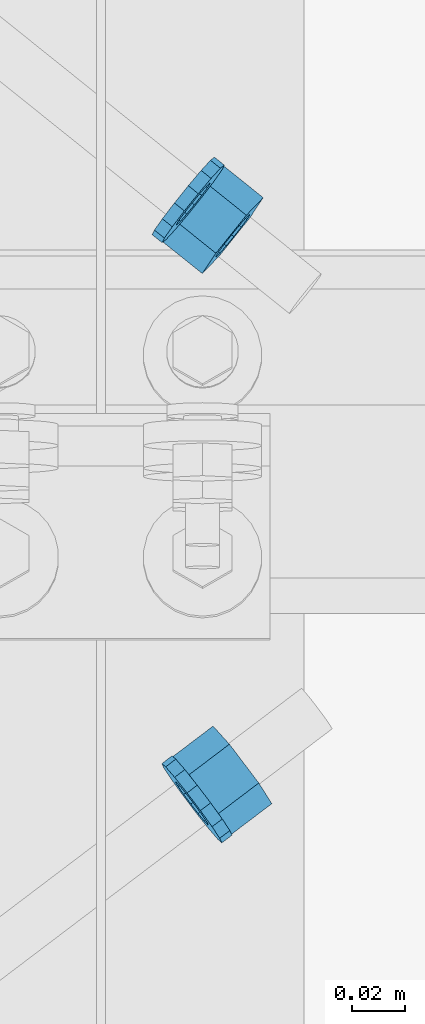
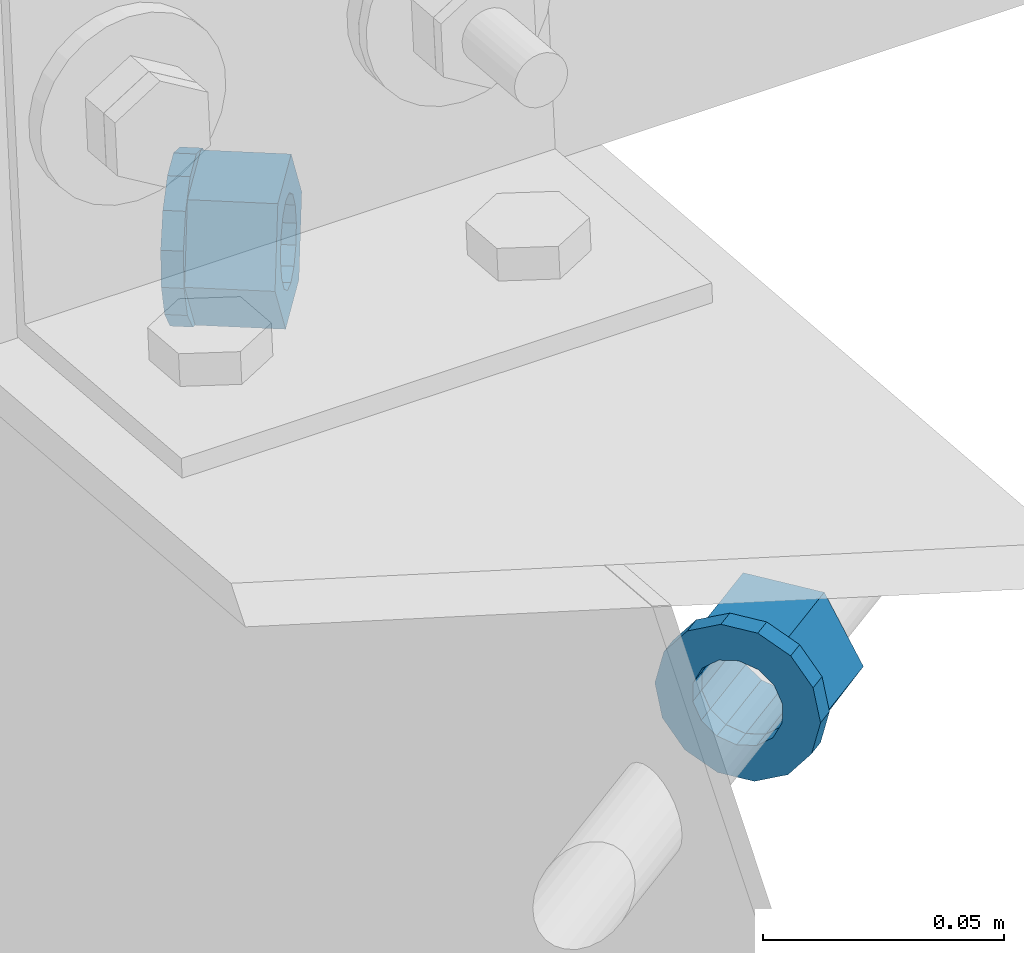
# One storey, part 47 of 185: 4 beams, 4 elements without a shape of their own.
"""IFC2X3 building model written with IfcOpenShell, lengths in millimetres."""

from ifc_helpers import new_model, si_unit, frame, origin_with_axes, place, context, subcontext, project, spatial, polyline, outline, extrude, material, type_object, element, aggregate, save


model = new_model("IFC2X3")

# Units and contexts
model_context = context("Model", 3, precision=1e-05, world=origin_with_axes())
body_context = subcontext(model_context, "Body", "Model", "MODEL_VIEW")
ifc_project = project(units=[si_unit("LENGTHUNIT", "METRE", prefix="MILLI"), si_unit("AREAUNIT", "SQUARE_METRE"), si_unit("VOLUMEUNIT", "CUBIC_METRE"), si_unit("MASSUNIT", "GRAM", prefix="KILO"), si_unit("TIMEUNIT", "SECOND"), si_unit("PLANEANGLEUNIT", "RADIAN"), si_unit("SOLIDANGLEUNIT", "STERADIAN"), si_unit("THERMODYNAMICTEMPERATUREUNIT", "DEGREE_CELSIUS"), si_unit("LUMINOUSINTENSITYUNIT", "LUMEN")], contexts=[model_context])

# Site, building, storey
site_placement = place(None, origin_with_axes())
site = spatial("IfcSite", under=ifc_project, at=site_placement, Name="Undefined", CompositionType="ELEMENT")
building_placement = place(site_placement, origin_with_axes())
building = spatial("IfcBuilding", under=site, at=building_placement, Name="Undefined", CompositionType="ELEMENT")
storey_placement = place(building_placement, origin_with_axes())
storey = spatial("IfcBuildingStorey", under=building, at=storey_placement, Name="Undefined", CompositionType="ELEMENT", Elevation=0.0)

# Assembly, beam
assembly_1_placement = place(storey_placement, origin_with_axes())
assembly_1 = element("IfcElementAssembly", 1, at=assembly_1_placement, inside=storey, Name="Steel Assembly", AssemblyPlace="NOTDEFINED", PredefinedType="RIGID_FRAME")
ifc_material = material(Name="STEEL/55")
beam_type_1 = type_object("IfcBeamType", Name="3/4_HEAVY_HEX_NUT", PredefinedType="NOTDEFINED")
beam_1_placement = place(assembly_1_placement, frame((37756.9172232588, 25273.2563148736, 6394.0371357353), z_axis=(0.0397308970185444, 0.0307693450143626, 0.998736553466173), x_axis=(0.796162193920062, 0.602993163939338, -0.0502494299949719)))
beam_1 = element("IfcBeam", 2, at=beam_1_placement, type_object=beam_type_1, material=ifc_material, Name="3/4 H HEX NUT A563", ObjectType="3/4_HEAVY_HEX_NUT", context=body_context, shape_type="SweptSolid", body=[
    extrude(outline(polyline([(9.13000011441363, -15.810000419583), (-9.13000011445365, -15.810000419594), (-18.2600002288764, 1.54614099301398e-11), (-9.13000011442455, 15.8100004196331), (9.13000011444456, 15.8100004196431), (18.2600002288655, 3.36513039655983e-11), (9.13000011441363, -15.810000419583)]), holes=[polyline([(-8.06850066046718, 6.43441456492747), (-10.061255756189, 2.29641597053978), (-10.0612557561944, -2.29641597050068), (-8.06850066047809, -6.43441456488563), (-4.47768005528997, -9.29799844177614), (-1.09139364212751e-11, -10.3199996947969), (4.47768005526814, -9.29799844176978), (8.0685006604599, -6.43441456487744), (10.0612557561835, -2.29641597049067), (10.0612557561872, 2.2964159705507), (8.06850066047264, 6.43441456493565), (4.47768005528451, 9.29799844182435), (7.27595761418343e-12, 10.319999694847), (-4.47768005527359, 9.2979984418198), (-8.06850066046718, 6.43441456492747)])]), frame((19.0500000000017, 0.0, 2.58175642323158e-19), z_axis=(-1.0, 0.0, 0.0), x_axis=(0.0, -1.0, 0.0)), (0.0, 0.0, 1.0), 19.0),
])
aggregate(assembly_1, [beam_1])

assembly_2_placement = place(storey_placement, origin_with_axes())
assembly_2 = element("IfcElementAssembly", 3, at=assembly_2_placement, inside=storey, Name="Steel Assembly", AssemblyPlace="NOTDEFINED", PredefinedType="RIGID_FRAME")
beam_2_placement = place(assembly_2_placement, frame((37753.6227770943, 25495.1940408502, 6375.542320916), z_axis=(0.0397456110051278, -0.0336837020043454, -0.998641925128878), x_axis=(0.778915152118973, -0.624963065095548, 0.0520802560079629)))
beam_2 = element("IfcBeam", 4, at=beam_2_placement, type_object=beam_type_1, material=ifc_material, Name="3/4 H HEX NUT A563", ObjectType="3/4_HEAVY_HEX_NUT", context=body_context, shape_type="SweptSolid", body=[
    extrude(outline(polyline([(9.13000011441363, -15.810000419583), (-9.13000011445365, -15.810000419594), (-18.2600002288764, 1.54614099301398e-11), (-9.13000011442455, 15.8100004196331), (9.13000011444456, 15.8100004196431), (18.2600002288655, 3.36513039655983e-11), (9.13000011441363, -15.810000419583)]), holes=[polyline([(-8.06850066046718, 6.43441456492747), (-10.061255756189, 2.29641597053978), (-10.0612557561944, -2.29641597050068), (-8.06850066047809, -6.43441456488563), (-4.47768005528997, -9.29799844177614), (-1.09139364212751e-11, -10.3199996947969), (4.47768005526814, -9.29799844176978), (8.0685006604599, -6.43441456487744), (10.0612557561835, -2.29641597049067), (10.0612557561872, 2.2964159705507), (8.06850066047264, 6.43441456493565), (4.47768005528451, 9.29799844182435), (7.27595761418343e-12, 10.319999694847), (-4.47768005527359, 9.2979984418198), (-8.06850066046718, 6.43441456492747)])]), frame((19.0500000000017, 0.0, 2.58175642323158e-19), z_axis=(-1.0, 0.0, 0.0), x_axis=(0.0, -1.0, 0.0)), (0.0, 0.0, 1.0), 19.0),
])
aggregate(assembly_2, [beam_2])

assembly_3_placement = place(storey_placement, origin_with_axes())
assembly_3 = element("IfcElementAssembly", 5, at=assembly_3_placement, inside=storey, Name="Steel Assembly", AssemblyPlace="NOTDEFINED", PredefinedType="RIGID_FRAME")
beam_type_2 = type_object("IfcBeamType", Name="3/4_WASHER", PredefinedType="NOTDEFINED")
beam_3_placement = place(assembly_3_placement, frame((37753.1255008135, 25270.3845599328, 6394.27644864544), z_axis=(0.0397308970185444, 0.0307693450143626, 0.998736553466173), x_axis=(0.796162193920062, 0.602993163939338, -0.0502494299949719)))
beam_3 = element("IfcBeam", 6, at=beam_3_placement, type_object=beam_type_2, material=ifc_material, Name="3/4 WASHER F844", ObjectType="3/4_WASHER", context=body_context, shape_type="SweptSolid", body=[
    extrude(outline(polyline([(-11.6280845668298, -14.5811568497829), (-16.8030690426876, -8.09193156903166), (-18.649999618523, -4.54747350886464e-12), (-16.8030690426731, 8.09193156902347), (-11.6280845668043, 14.5811568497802), (-4.15001533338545, 18.1824051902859), (4.15001533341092, 18.1824051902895), (11.628084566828, 14.5811568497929), (16.8030690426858, 8.09193156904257), (18.6499996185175, 1.45519152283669e-11), (16.8030690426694, -8.09193156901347), (11.6280845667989, -14.5811568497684), (4.15001533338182, -18.182405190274), (-4.15001533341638, -18.1824051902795), (-11.6280845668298, -14.5811568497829)]), holes=[polyline([(-8.06850066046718, 6.43441456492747), (-10.061255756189, 2.29641597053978), (-10.0612557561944, -2.29641597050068), (-8.06850066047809, -6.43441456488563), (-4.47768005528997, -9.29799844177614), (-1.09139364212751e-11, -10.3199996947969), (4.47768005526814, -9.29799844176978), (8.0685006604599, -6.43441456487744), (10.0612557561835, -2.29641597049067), (10.0612557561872, 2.2964159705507), (8.06850066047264, 6.43441456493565), (4.47768005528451, 9.29799844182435), (7.27595761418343e-12, 10.319999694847), (-4.47768005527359, 9.2979984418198), (-8.06850066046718, 6.43441456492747)])]), frame((4.76250000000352, 2.6437185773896e-16, 5.6843418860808e-14), z_axis=(-1.0, 0.0, 0.0), x_axis=(0.0, -1.0, 0.0)), (0.0, 0.0, 1.0), 4.8),
])
aggregate(assembly_3, [beam_3])

assembly_4_placement = place(storey_placement, origin_with_axes())
assembly_4 = element("IfcElementAssembly", 7, at=assembly_4_placement, inside=storey, Name="Steel Assembly", AssemblyPlace="NOTDEFINED", PredefinedType="RIGID_FRAME")
beam_4_placement = place(assembly_4_placement, frame((37749.9131937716, 25498.1704275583, 6375.29428869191), z_axis=(0.0397456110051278, -0.0336837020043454, -0.998641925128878), x_axis=(0.778915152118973, -0.624963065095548, 0.0520802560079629)))
beam_4 = element("IfcBeam", 8, at=beam_4_placement, type_object=beam_type_2, material=ifc_material, Name="3/4 WASHER F844", ObjectType="3/4_WASHER", context=body_context, shape_type="SweptSolid", body=[
    extrude(outline(polyline([(-11.6280845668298, -14.5811568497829), (-16.8030690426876, -8.09193156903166), (-18.649999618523, -4.54747350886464e-12), (-16.8030690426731, 8.09193156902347), (-11.6280845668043, 14.5811568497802), (-4.15001533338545, 18.1824051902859), (4.15001533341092, 18.1824051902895), (11.628084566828, 14.5811568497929), (16.8030690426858, 8.09193156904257), (18.6499996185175, 1.45519152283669e-11), (16.8030690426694, -8.09193156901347), (11.6280845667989, -14.5811568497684), (4.15001533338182, -18.182405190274), (-4.15001533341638, -18.1824051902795), (-11.6280845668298, -14.5811568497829)]), holes=[polyline([(-8.06850066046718, 6.43441456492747), (-10.061255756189, 2.29641597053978), (-10.0612557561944, -2.29641597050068), (-8.06850066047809, -6.43441456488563), (-4.47768005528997, -9.29799844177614), (-1.09139364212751e-11, -10.3199996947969), (4.47768005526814, -9.29799844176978), (8.0685006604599, -6.43441456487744), (10.0612557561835, -2.29641597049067), (10.0612557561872, 2.2964159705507), (8.06850066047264, 6.43441456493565), (4.47768005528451, 9.29799844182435), (7.27595761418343e-12, 10.319999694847), (-4.47768005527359, 9.2979984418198), (-8.06850066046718, 6.43441456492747)])]), frame((4.76250000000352, 2.6437185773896e-16, 5.6843418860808e-14), z_axis=(-1.0, 0.0, 0.0), x_axis=(0.0, -1.0, 0.0)), (0.0, 0.0, 1.0), 4.8),
])
aggregate(assembly_4, [beam_4])

save(model, "model.ifc")
